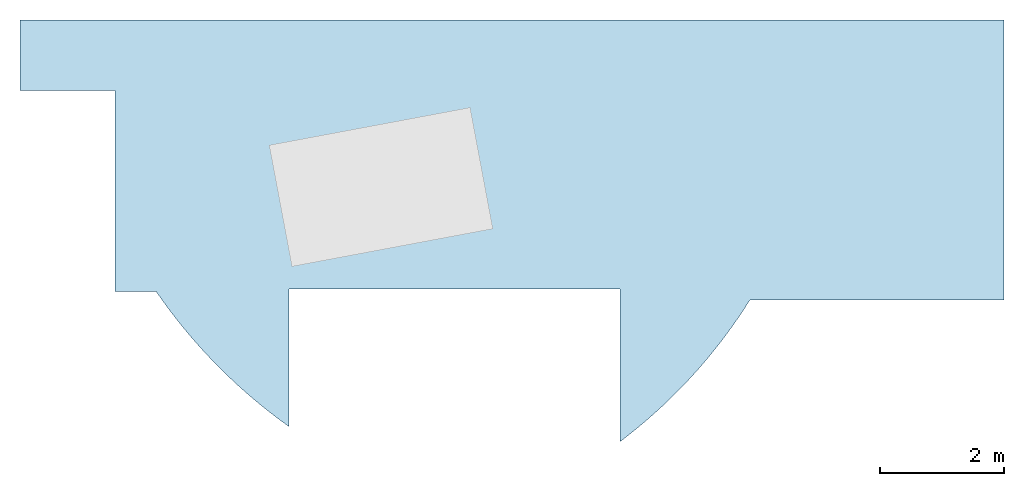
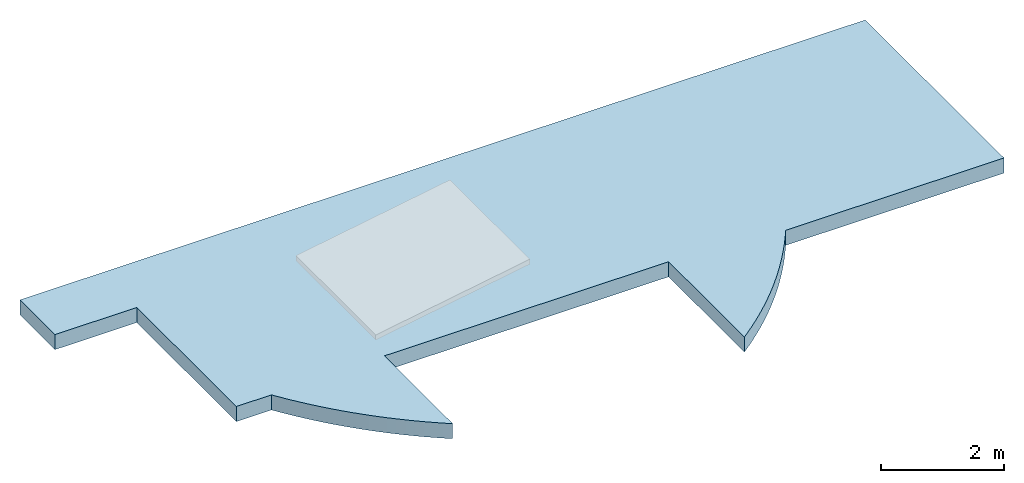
"""IFC4 building model written with IfcOpenShell, lengths in metres."""

from ifc_helpers import new_model, entity, si_unit, converted_unit, derived_unit, frame, origin, place, context, subcontext, project, spatial, faceted_brep, element, save


model = new_model("IFC4")

# Units and contexts
model_context = context("Model", 3, precision=1e-05, world=origin())
body_context = subcontext(model_context, "Body", "Model", "MODEL_VIEW")
ifc_project = project(units=[si_unit("LENGTHUNIT", "METRE"), si_unit("AREAUNIT", "SQUARE_METRE"), si_unit("VOLUMEUNIT", "CUBIC_METRE"), si_unit("MASSUNIT", "GRAM", prefix="KILO"), converted_unit("PLANEANGLEUNIT", "DEGREE", entity("IfcPlaneAngleMeasure", 0.0174532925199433), si_unit("PLANEANGLEUNIT", "RADIAN"), dimensions=[0, 0, 0, 0, 0, 0, 0]), derived_unit("THERMALTRANSMITTANCEUNIT", [(si_unit("POWERUNIT", "WATT"), 1), (si_unit("THERMODYNAMICTEMPERATUREUNIT", "KELVIN"), -1), (si_unit("LENGTHUNIT", "METRE"), -2)]), derived_unit("VOLUMETRICFLOWRATEUNIT", [(si_unit("LENGTHUNIT", "METRE"), 3), (converted_unit("TIMEUNIT", "hour", entity("IfcTimeMeasure", 3600.0), si_unit("TIMEUNIT", "SECOND"), dimensions=[0, 0, 1, 0, 0, 0, 0]), -1), (si_unit("LENGTHUNIT", "METRE"), -1)])], contexts=[model_context])

# Building, storeys
building_placement = place(None, origin())
building = spatial("IfcBuilding", under=ifc_project, at=building_placement, Name="HABITATGE PLURIFAMILIAR", CompositionType="ELEMENT")
storey_1_placement = place(building_placement, frame((0.0, 0.0, 24.37)))
storey_1 = spatial("IfcBuildingStorey", under=building, at=storey_1_placement, Name="PLANTA COBERTA", CompositionType="ELEMENT", Elevation=24.37)
storey_2_placement = place(storey_1_placement, origin())
storey_2 = spatial("IfcBuildingStorey", under=storey_1, at=storey_2_placement, Name="NOU", CompositionType="PARTIAL")

# Roof
roof_placement = place(storey_2_placement, frame((405.597771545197, 21.4634619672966, -0.3)))
element("IfcRoof", 1, at=roof_placement, inside=storey_2, Name="Cobertura PC", PredefinedType="NOTDEFINED", context=body_context, shape_type="Brep", body=[
    faceted_brep([(2.996164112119e-05, 6.82012952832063, 0.0), (15.9100159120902, 6.82012952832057, 0.0), (15.9100159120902, 6.82012952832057, 0.3), (2.996164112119e-05, 6.82012952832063, 0.3), (15.9100159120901, 2.29112952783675, 0.0), (15.9100159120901, 2.29112952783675, 0.3), (11.800680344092, 2.29112952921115, 0.0), (11.800680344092, 2.29112952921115, 0.3), (11.7070609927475, 2.14487622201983, 0.0), (11.7070609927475, 2.14487622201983, 0.3), (11.6104903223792, 2.00055464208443, 0.0), (11.6104903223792, 2.00055464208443, 0.3), (11.5110081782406, 1.85822433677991, 0.0), (11.5110081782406, 1.85822433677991, 0.3), (11.4086556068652, 1.71794403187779, 0.0), (11.4086556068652, 1.71794403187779, 0.3), (11.3034748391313, 1.57977160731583, 0.0), (11.3034748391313, 1.57977160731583, 0.3), (11.1955092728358, 1.44376407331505, 0.0), (11.1955092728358, 1.44376407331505, 0.3), (11.0848034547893, 1.30997754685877, 0.0), (11.0848034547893, 1.30997754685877, 0.3), (10.9714030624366, 1.17846722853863, 0.0), (10.9714030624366, 1.17846722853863, 0.3), (10.8553548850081, 1.04928737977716, 0.0), (10.8553548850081, 1.04928737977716, 0.3), (10.7367068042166, 0.922491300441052, 0.0), (10.7367068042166, 0.922491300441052, 0.3), (10.6155077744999, 0.798131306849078, 0.0), (10.6155077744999, 0.798131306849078, 0.3), (10.4918078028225, 0.67625871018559, 0.0), (10.4918078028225, 0.67625871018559, 0.3), (10.3656579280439, 0.556923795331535, 0.0), (10.3656579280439, 0.556923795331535, 0.3), (10.2371101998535, 0.440175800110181, 0.0), (10.2371101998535, 0.440175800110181, 0.3), (10.1062176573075, 0.326062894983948, 0.0), (10.1062176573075, 0.326062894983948, 0.3), (9.97303430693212, 0.21463216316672, 0.0), (9.97303430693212, 0.21463216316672, 0.3), (9.83761510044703, 0.105929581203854, 0.0), (9.83761510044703, 0.105929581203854, 0.3), (9.70001591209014, 0.0, 0.0), (9.70001591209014, 0.0, 0.3), (9.70001591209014, 2.47112952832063, 0.0), (9.70001591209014, 2.47112952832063, 0.3), (4.35001592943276, 2.47112952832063, 0.0), (4.35001592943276, 2.47112952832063, 0.3), (4.35001603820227, 0.244634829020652, 0.0), (4.35001603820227, 0.244634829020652, 0.3), (4.22526159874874, 0.335105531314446, 0.0), (4.22526159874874, 0.335105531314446, 0.3), (4.10211086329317, 0.427747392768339, 0.0), (4.10211086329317, 0.427747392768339, 0.3), (3.98060161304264, 0.522531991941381, 0.0), (3.98060161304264, 0.522531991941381, 0.3), (3.86077112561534, 0.619430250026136, 0.0), (3.86077112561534, 0.619430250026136, 0.3), (3.74265616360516, 0.71841243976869, 0.0), (3.74265616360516, 0.71841243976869, 0.3), (3.62629296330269, 0.819448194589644, 0.0), (3.62629296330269, 0.819448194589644, 0.3), (3.51171722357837, 0.922506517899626, 0.0), (3.51171722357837, 0.922506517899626, 0.3), (3.39896409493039, 1.02755579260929, 0.0), (3.39896409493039, 1.02755579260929, 0.3), (3.2880681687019, 1.13456379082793, 0.0), (3.2880681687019, 1.13456379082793, 0.3), (3.17906346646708, 1.24349768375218, 0.0), (3.17906346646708, 1.24349768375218, 0.3), (3.07198342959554, 1.35432405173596, 0.0), (3.07198342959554, 1.35432405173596, 0.3), (2.96686090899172, 1.46700889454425, 0.0), (2.96686090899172, 1.46700889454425, 0.3), (2.86372815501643, 1.58151764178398, 0.0), (2.86372815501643, 1.58151764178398, 0.3), (2.76261680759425, 1.69781516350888, 0.0), (2.76261680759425, 1.69781516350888, 0.3), (2.66355788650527, 1.81586578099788, 0.0), (2.66355788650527, 1.81586578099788, 0.3), (2.56658178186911, 1.93563327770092, 0.0), (2.56658178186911, 1.93563327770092, 0.3), (2.47171824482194, 2.05708091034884, 0.0), (2.47171824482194, 2.05708091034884, 0.3), (2.37899637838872, 2.18017142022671, 0.0), (2.37899637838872, 2.18017142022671, 0.3), (2.28844462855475, 2.30486704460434, 0.0), (2.28844462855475, 2.30486704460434, 0.3), (2.20009077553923, 2.43112952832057, 0.0), (2.20009077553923, 2.43112952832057, 0.3), (1.5399146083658, 2.43112952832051, 0.0), (1.5399146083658, 2.43112952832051, 0.3), (1.54000000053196, 5.68014424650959, 0.0), (1.54000000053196, 5.68014424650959, 0.3), (0.0, 5.68014424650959, 0.0), (0.0, 5.68014424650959, 0.3)], [[[0, 1, 2, 3]], [[1, 4, 5, 2]], [[4, 6, 7, 5]], [[6, 8, 9, 7]], [[8, 10, 11, 9]], [[10, 12, 13, 11]], [[12, 14, 15, 13]], [[14, 16, 17, 15]], [[16, 18, 19, 17]], [[18, 20, 21, 19]], [[20, 22, 23, 21]], [[22, 24, 25, 23]], [[24, 26, 27, 25]], [[26, 28, 29, 27]], [[28, 30, 31, 29]], [[30, 32, 33, 31]], [[32, 34, 35, 33]], [[34, 36, 37, 35]], [[36, 38, 39, 37]], [[38, 40, 41, 39]], [[40, 42, 43, 41]], [[42, 44, 45, 43]], [[44, 46, 47, 45]], [[46, 48, 49, 47]], [[48, 50, 51, 49]], [[50, 52, 53, 51]], [[52, 54, 55, 53]], [[54, 56, 57, 55]], [[56, 58, 59, 57]], [[58, 60, 61, 59]], [[60, 62, 63, 61]], [[62, 64, 65, 63]], [[64, 66, 67, 65]], [[66, 68, 69, 67]], [[68, 70, 71, 69]], [[70, 72, 73, 71]], [[72, 74, 75, 73]], [[74, 76, 77, 75]], [[76, 78, 79, 77]], [[78, 80, 81, 79]], [[80, 82, 83, 81]], [[82, 84, 85, 83]], [[84, 86, 87, 85]], [[86, 88, 89, 87]], [[88, 90, 91, 89]], [[90, 92, 93, 91]], [[92, 94, 95, 93]], [[94, 0, 3, 95]], [[95, 3, 2, 5, 7, 9, 11, 13, 15, 17, 19, 21, 23, 25, 27, 29, 31, 33, 35, 37, 39, 41, 43, 45, 47, 49, 51, 53, 55, 57, 59, 61, 63, 65, 67, 69, 71, 73, 75, 77, 79, 81, 83, 85, 87, 89, 91, 93]], [[0, 94, 92, 90, 88, 86, 84, 82, 80, 78, 76, 74, 72, 70, 68, 66, 64, 62, 60, 58, 56, 54, 52, 50, 48, 46, 44, 42, 40, 38, 36, 34, 32, 30, 28, 26, 24, 22, 20, 18, 16, 14, 12, 10, 8, 6, 4, 1]]], orient=[[False], [False], [False], [False], [False], [False], [False], [False], [False], [False], [False], [False], [False], [False], [False], [False], [False], [False], [False], [False], [False], [False], [False], [False], [False], [False], [False], [False], [False], [False], [False], [False], [False], [False], [False], [False], [False], [False], [False], [False], [False], [False], [False], [False], [False], [False], [False], [False], [False], [False]]),
])

save(model, "model.ifc")
